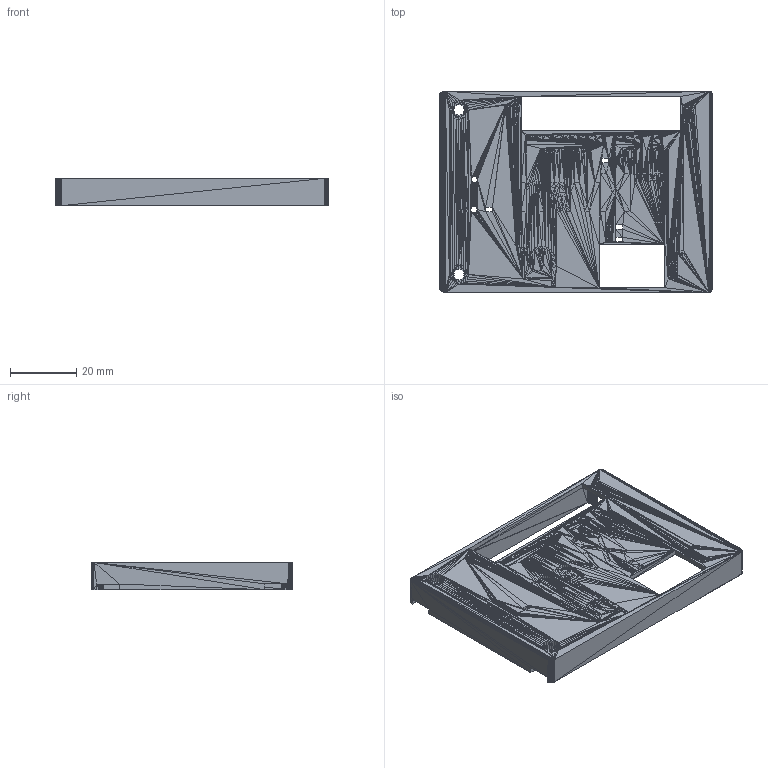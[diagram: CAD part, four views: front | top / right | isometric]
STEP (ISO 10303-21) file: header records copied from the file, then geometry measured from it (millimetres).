
FILE_DESCRIPTION(('AUTOMAPKI'),'2;1');
FILE_NAME('navx-mxp-roborio-lid_v4','2020-02-07T09:21:18',('AUTOMAPKI'), ('AUTOMAPKI'),'Open CASCADE STEP processor 7.3','AUTOMAPKI','Unknown' );
FILE_SCHEMA(('AUTOMOTIVE_DESIGN { 1 0 10303 214 1 1 1 1 }'));
Length unit declared in the file: millimetre
Products named in the file (2): AUTOMAPKI 1; am0036b6
Bounding box: 82.13 x 60.75 x 8.24 mm (x, y, z)
Surface area: 13214.6 mm2 (no closed solid volume)
Topology: 0 solids, 4 shells, 12459 faces, 18722 edges, 6245 vertices
Faces by surface type: plane 12459
Entity records: 243262 total; most frequent: DIRECTION 43642, CARTESIAN_POINT 37427, ORIENTED_EDGE 37418, EDGE_CURVE 18722, LINE 18722, VECTOR 18722, AXIS2_PLACEMENT_3D 12460, ADVANCED_FACE 12459
